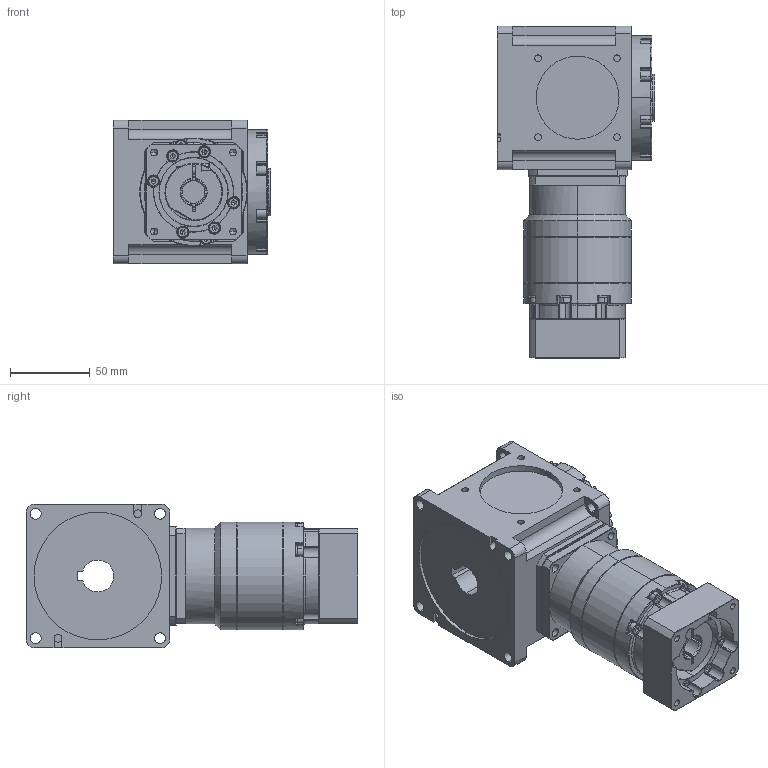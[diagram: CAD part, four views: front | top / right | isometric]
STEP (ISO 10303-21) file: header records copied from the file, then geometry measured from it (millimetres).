
FILE_DESCRIPTION (( 'STEP AP214' ), '1' );
FILE_NAME ('CCW090A-L2(24~200)-CR 14-50-70-M5.STEP', '2025-06-03T02:54:42', ( '微软用户' ), ( '微软中国' ), 'SwSTEP 2.0', 'SolidWorks 2024', '' );
FILE_SCHEMA (( 'AUTOMOTIVE_DESIGN' ));
Length unit declared in the file: millimetre
Products named in the file (3): VRB-060-L2-S2-P1 14-50-70-M5; CCW090A-L2(24~200)-CR  14-50-70-M5; CCW090A-002-CR箱体
Assembly tree (2 placements, depth 2):
  CCW090A-L2(24~200)-CR  14-50-70-M5
    CCW090A-002-CR箱体
    VRB-060-L2-S2-P1 14-50-70-M5
Bounding box: 99 x 208 x 90 mm (x, y, z)
Volume: 914099.9 mm3; surface area: 148551.4 mm2
Topology: 34 solids, 34 shells, 1464 faces, 3587 edges, 2231 vertices
Faces by surface type: plane 564, cylinder 553, cone 234, torus 81, sphere 20, bspline 12
Entity records: 44029 total; most frequent: CARTESIAN_POINT 8588, DIRECTION 7812, ORIENTED_EDGE 7026, EDGE_CURVE 3513, AXIS2_PLACEMENT_3D 3080, VERTEX_POINT 2223, VECTOR 1652, LINE 1652
